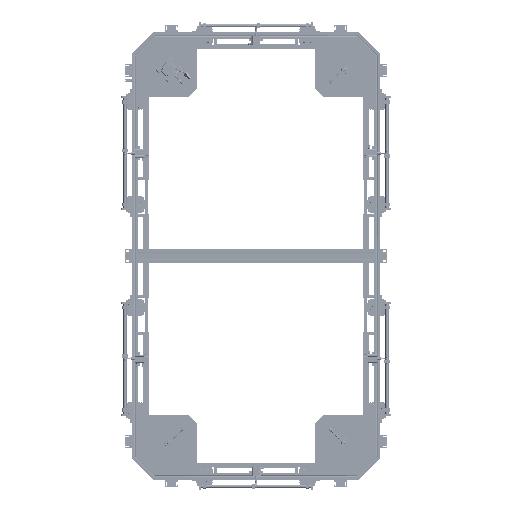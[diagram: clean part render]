
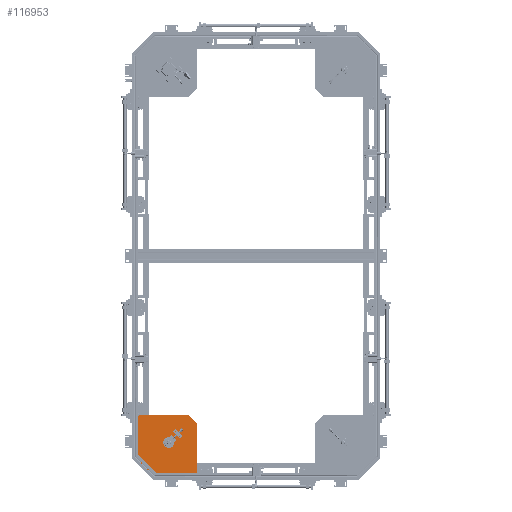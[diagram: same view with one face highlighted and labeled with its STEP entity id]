
A CAD part, front view. The second image highlights one B-rep face of the part: STEP entity #116953.
In plain terms, the highlighted planar face has unit normal (0, -1, 0) as drawn and (0, 0, -1) by its records, which use the part's own axes.
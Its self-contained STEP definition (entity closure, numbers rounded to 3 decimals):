
#2689 = DIRECTION ( 'NONE',  ( 1., 0., 0. ) ) ;
#3004 = DIRECTION ( 'NONE',  ( 1., 0., 0. ) ) ;
#10452 = EDGE_CURVE ( 'NONE', #130097, #51387, #22805, .T. ) ;
#11636 = CARTESIAN_POINT ( 'NONE',  ( 30.416, -329.584, 0. ) ) ;
#18594 = ORIENTED_EDGE ( 'NONE', *, *, #91680, .T. ) ;
#19231 = EDGE_CURVE ( 'NONE', #92255, #87637, #99421, .T. ) ;
#19741 = CARTESIAN_POINT ( 'NONE',  ( 30.416, -329.584, 0. ) ) ;
#20288 = VERTEX_POINT ( 'NONE', #124644 ) ;
#21014 = AXIS2_PLACEMENT_3D ( 'NONE', #103403, #40050, #2689 ) ;
#21144 = ORIENTED_EDGE ( 'NONE', *, *, #21879, .T. ) ;
#21696 = VECTOR ( 'NONE', #83978, 1000. ) ;
#21879 = EDGE_CURVE ( 'NONE', #20288, #26890, #25584, .T. ) ;
#22805 = LINE ( 'NONE', #94245, #87914 ) ;
#24412 = DIRECTION ( 'NONE',  ( 0.707, 0.707, 0. ) ) ;
#25584 = LINE ( 'NONE', #50798, #59015 ) ;
#25643 = LINE ( 'NONE', #147730, #21696 ) ;
#26890 = VERTEX_POINT ( 'NONE', #86793 ) ;
#27247 = ORIENTED_EDGE ( 'NONE', *, *, #114742, .F. ) ;
#34329 = ORIENTED_EDGE ( 'NONE', *, *, #98325, .F. ) ;
#39126 = EDGE_LOOP ( 'NONE', ( #103651, #50660, #34329, #145354, #41841 ) ) ;
#40050 = DIRECTION ( 'NONE',  ( 0., 0., -1. ) ) ;
#40644 = VECTOR ( 'NONE', #133265, 1000. ) ;
#41841 = ORIENTED_EDGE ( 'NONE', *, *, #55603, .F. ) ;
#43255 = DIRECTION ( 'NONE',  ( 0., 0., -1. ) ) ;
#44399 = AXIS2_PLACEMENT_3D ( 'NONE', #142167, #66845, #54712 ) ;
#47963 = ORIENTED_EDGE ( 'NONE', *, *, #89239, .T. ) ;
#48363 = CARTESIAN_POINT ( 'NONE',  ( -86.655, -191.213, 0. ) ) ;
#48910 = DIRECTION ( 'NONE',  ( -0.707, 0.707, 0. ) ) ;
#50660 = ORIENTED_EDGE ( 'NONE', *, *, #129130, .F. ) ;
#50798 = CARTESIAN_POINT ( 'NONE',  ( -176.13, 55.416, 0. ) ) ;
#51387 = VERTEX_POINT ( 'NONE', #19741 ) ;
#51973 = LINE ( 'NONE', #155557, #134555 ) ;
#53248 = CARTESIAN_POINT ( 'NONE',  ( 80., 55.416, 0. ) ) ;
#54187 = CARTESIAN_POINT ( 'NONE',  ( -58.37, -162.929, 0. ) ) ;
#54348 = CARTESIAN_POINT ( 'NONE',  ( -72.513, -148.787, 0. ) ) ;
#54712 = DIRECTION ( 'NONE',  ( 1., 0., 0. ) ) ;
#55603 = EDGE_CURVE ( 'NONE', #87637, #97349, #137322, .T. ) ;
#56595 = EDGE_CURVE ( 'NONE', #97349, #131680, #76602, .T. ) ;
#59015 = VECTOR ( 'NONE', #24412, 1000. ) ;
#62150 = VERTEX_POINT ( 'NONE', #53248 ) ;
#64638 = ORIENTED_EDGE ( 'NONE', *, *, #102912, .F. ) ;
#66845 = DIRECTION ( 'NONE',  ( 0., 0., -1. ) ) ;
#68095 = CARTESIAN_POINT ( 'NONE',  ( -86.655, -162.929, 0. ) ) ;
#68365 = DIRECTION ( 'NONE',  ( 1., 0., 0. ) ) ;
#76602 = CIRCLE ( 'NONE', #44399, 20. ) ;
#79290 = FACE_OUTER_BOUND ( 'NONE', #149677, .T. ) ;
#80039 = ORIENTED_EDGE ( 'NONE', *, *, #10452, .F. ) ;
#83817 = CARTESIAN_POINT ( 'NONE',  ( -305., -329.584, 0. ) ) ;
#83978 = DIRECTION ( 'NONE',  ( 1., 0., 0. ) ) ;
#86793 = CARTESIAN_POINT ( 'NONE',  ( -176.13, 55.416, 0. ) ) ;
#87637 = VERTEX_POINT ( 'NONE', #155496 ) ;
#87914 = VECTOR ( 'NONE', #68365, 1000. ) ;
#89239 = EDGE_CURVE ( 'NONE', #130097, #20288, #51973, .T. ) ;
#91196 = VECTOR ( 'NONE', #148494, 1000. ) ;
#91680 = EDGE_CURVE ( 'NONE', #26890, #62150, #25643, .T. ) ;
#92255 = VERTEX_POINT ( 'NONE', #110003 ) ;
#92419 = DIRECTION ( 'NONE',  ( 0., 1., 0. ) ) ;
#94245 = CARTESIAN_POINT ( 'NONE',  ( 0., -329.584, 0. ) ) ;
#95764 = LINE ( 'NONE', #48363, #160541 ) ;
#97349 = VERTEX_POINT ( 'NONE', #54187 ) ;
#98325 = EDGE_CURVE ( 'NONE', #131680, #114125, #153283, .T. ) ;
#99421 = CIRCLE ( 'NONE', #155282, 20. ) ;
#100183 = AXIS2_PLACEMENT_3D ( 'NONE', #129546, #104799, #3004 ) ;
#102912 = EDGE_CURVE ( 'NONE', #51387, #156756, #124637, .T. ) ;
#103403 = CARTESIAN_POINT ( 'NONE',  ( -72.513, -177.071, 0. ) ) ;
#103651 = ORIENTED_EDGE ( 'NONE', *, *, #19231, .F. ) ;
#104799 = DIRECTION ( 'NONE',  ( 0., 0., 1. ) ) ;
#110003 = CARTESIAN_POINT ( 'NONE',  ( -100.797, -177.071, 0. ) ) ;
#114125 = VERTEX_POINT ( 'NONE', #128081 ) ;
#114742 = EDGE_CURVE ( 'NONE', #156756, #62150, #129294, .T. ) ;
#116342 = PLANE ( 'NONE',  #100183 ) ;
#116953 = ADVANCED_FACE ( 'NONE', ( #79290, #134387 ), #116342, .F. ) ;
#124637 = LINE ( 'NONE', #11636, #91196 ) ;
#124644 = CARTESIAN_POINT ( 'NONE',  ( -305., -73.454, 0. ) ) ;
#128081 = CARTESIAN_POINT ( 'NONE',  ( -86.655, -191.213, 0. ) ) ;
#129130 = EDGE_CURVE ( 'NONE', #114125, #92255, #95764, .T. ) ;
#129294 = LINE ( 'NONE', #157936, #40644 ) ;
#129546 = CARTESIAN_POINT ( 'NONE',  ( 0., 0., 0. ) ) ;
#130097 = VERTEX_POINT ( 'NONE', #83817 ) ;
#131680 = VERTEX_POINT ( 'NONE', #147484 ) ;
#133265 = DIRECTION ( 'NONE',  ( 0., 1., 0. ) ) ;
#134387 = FACE_BOUND ( 'NONE', #39126, .T. ) ;
#134555 = VECTOR ( 'NONE', #92419, 1000. ) ;
#137322 = LINE ( 'NONE', #54348, #146892 ) ;
#142167 = CARTESIAN_POINT ( 'NONE',  ( -72.513, -177.071, 0. ) ) ;
#145354 = ORIENTED_EDGE ( 'NONE', *, *, #56595, .F. ) ;
#146892 = VECTOR ( 'NONE', #153894, 1000. ) ;
#147484 = CARTESIAN_POINT ( 'NONE',  ( -52.513, -177.071, 0. ) ) ;
#147730 = CARTESIAN_POINT ( 'NONE',  ( 0., 55.416, 0. ) ) ;
#148494 = DIRECTION ( 'NONE',  ( 0.707, 0.707, 0. ) ) ;
#149677 = EDGE_LOOP ( 'NONE', ( #47963, #21144, #18594, #27247, #64638, #80039 ) ) ;
#153283 = CIRCLE ( 'NONE', #21014, 20. ) ;
#153894 = DIRECTION ( 'NONE',  ( 0.707, -0.707, 0. ) ) ;
#155282 = AXIS2_PLACEMENT_3D ( 'NONE', #68095, #43255, #156048 ) ;
#155496 = CARTESIAN_POINT ( 'NONE',  ( -72.513, -148.787, 0. ) ) ;
#155557 = CARTESIAN_POINT ( 'NONE',  ( -305., -59.107, 0. ) ) ;
#156048 = DIRECTION ( 'NONE',  ( 1., 0., 0. ) ) ;
#156756 = VERTEX_POINT ( 'NONE', #158359 ) ;
#157936 = CARTESIAN_POINT ( 'NONE',  ( 80., 0., 0. ) ) ;
#158359 = CARTESIAN_POINT ( 'NONE',  ( 80., -280., 0. ) ) ;
#160541 = VECTOR ( 'NONE', #48910, 1000. ) ;
